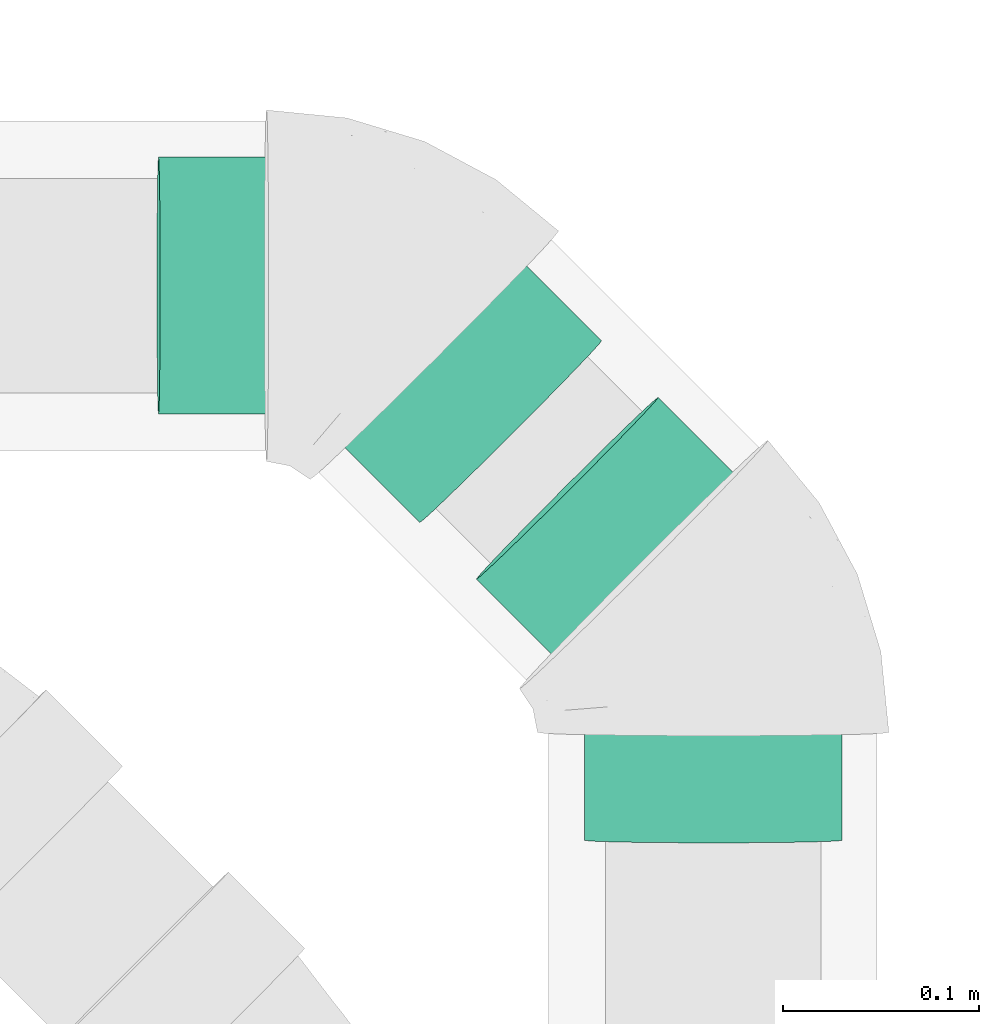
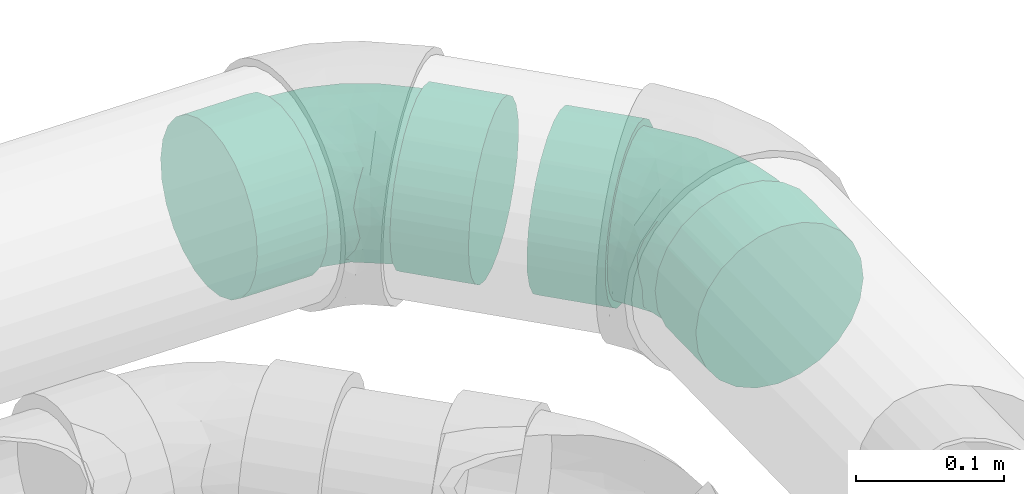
# One storey, part 74 of 78: 2 flow fittings.
"""IFC2X3 building model written with IfcOpenShell, lengths in millimetres."""

from ifc_helpers import new_model, entity, si_unit, converted_unit, derived_unit, direction, frame, origin_with_axes, place, context, subcontext, project, spatial, open_shell, surface_model, source, transform, mapped, type_object, element, save


model = new_model("IFC2X3")

# Units and contexts
model_context = context("Model", 3, precision=0.01, world=frame((0.0, 4.29681676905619e-09, 0.0)), true_north=direction((4.01073788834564e-13, 1.0)))
plan_context = context("Plan", 3, precision=0.01, world=frame((0.0, 4.29681676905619e-09, 0.0)), true_north=direction((4.01073788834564e-13, 1.0)))
body_context = subcontext(model_context, "Body", "Model", "MODEL_VIEW")
ifc_project = project(units=[converted_unit("PLANEANGLEUNIT", "DEGREE", entity("IfcPositiveLengthMeasure", 0.0174532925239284), si_unit("PLANEANGLEUNIT", "RADIAN"), dimensions=[0, 0, 0, 0, 0, 0, 0]), si_unit("AREAUNIT", "SQUARE_METRE"), si_unit("LENGTHUNIT", "METRE", prefix="MILLI"), si_unit("MASSUNIT", "GRAM", prefix="KILO"), si_unit("POWERUNIT", "WATT"), si_unit("PRESSUREUNIT", "PASCAL"), si_unit("FORCEUNIT", "NEWTON", prefix="KILO"), si_unit("ELECTRICVOLTAGEUNIT", "VOLT"), si_unit("ELECTRICCURRENTUNIT", "AMPERE"), si_unit("THERMODYNAMICTEMPERATUREUNIT", "DEGREE_CELSIUS"), si_unit("TIMEUNIT", "SECOND"), si_unit("VOLUMEUNIT", "CUBIC_METRE"), derived_unit("LINEARVELOCITYUNIT", [(si_unit("LENGTHUNIT", "METRE"), 1), (si_unit("TIMEUNIT", "SECOND"), -1)]), derived_unit("VOLUMETRICFLOWRATEUNIT", [(si_unit("VOLUMEUNIT", "CUBIC_METRE"), 1), (si_unit("TIMEUNIT", "SECOND"), -1)]), derived_unit("THERMALTRANSMITTANCEUNIT", [(si_unit("POWERUNIT", "WATT"), 1), (si_unit("THERMODYNAMICTEMPERATUREUNIT", "KELVIN"), -1), (si_unit("AREAUNIT", "SQUARE_METRE"), -1)]), derived_unit("SOUNDPRESSUREUNIT", [(si_unit("PRESSUREUNIT", "PASCAL"), 1)])], contexts=[model_context, plan_context])

# Site, building, storey
site_placement = place(None, frame((0.0, -4.29681676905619e-09, 0.0), z_axis=(0.0, 0.0, 1.0), x_axis=(1.0, 0.0, 0.0)))
site = spatial("IfcSite", under=ifc_project, at=site_placement, Name="ENGM", CompositionType="ELEMENT")
building_placement = place(site_placement, frame((0.0, 4.29681676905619e-09, 0.0), z_axis=(0.0, 0.0, 1.0), x_axis=(1.0, 0.0, 0.0)))
building = spatial("IfcBuilding", under=site, at=building_placement, Name="TH", CompositionType="ELEMENT")
storey_placement = place(building_placement, frame((0.0, 0.0, 205200.0), z_axis=(0.0, 0.0, 1.0), x_axis=(1.0, 0.0, 0.0)))
storey = spatial("IfcBuildingStorey", under=building, at=storey_placement, Name="Nivå D + 1,2 m", CompositionType="ELEMENT", Elevation=205200.0)

# Flow fittings
pipe_fitting_type = type_object("IfcPipeFittingType", Name="magi_sewer_bend_001", PredefinedType="BEND")
shared_shape_1 = source(origin_with_axes(), body_context, "Body", "SurfaceModel", [
    surface_model("IfcShellBasedSurfaceModel", [(-105.10835, -16.95265, -63.26814), (-105.10835, -32.75, -56.72466), (-105.10835, -46.3155, -46.3155), (-105.10835, -63.26814, -16.95265), (-105.10835, 56.72466, -32.75), (-105.10835, -56.72466, -32.75), (-105.10835, -65.5, 0.0), (-105.10835, 16.95265, -63.26814), (-105.10835, 0.0, -65.5), (-105.10835, 32.75, -56.72466), (-105.10835, 46.3155, -46.3155), (-105.10835, 63.26814, -16.95265), (-105.10835, -63.26814, 16.95265), (-105.10835, -56.72466, 32.75), (-105.10835, -46.3155, 46.3155), (-105.10835, 63.26814, 16.95265), (-105.10835, -16.95265, 63.26814), (-105.10835, 0.0, 65.5), (-105.10835, -32.75, 56.72466), (-105.10835, 46.3155, 46.3155), (-105.10835, 56.72466, 32.75), (-105.10835, 65.5, 0.0), (-105.10835, 16.95265, 63.26814), (-105.10835, 32.75, 56.72466), (-50.10835, -16.95265, 63.26814), (-50.10835, 16.95265, 63.26814), (-50.10835, 0.0, 65.5), (-50.10835, -46.3155, 46.3155), (-50.10835, -32.75, 56.72466), (-50.10835, -56.72466, 32.75), (-50.10835, -63.26814, 16.95265), (-50.10835, 46.3155, 46.3155), (-50.10835, 32.75, 56.72466), (-50.10835, 63.26814, 16.95265), (-50.10835, 56.72466, 32.75), (-50.10835, 63.26814, -16.95265), (-50.10835, 65.5, 0.0), (-50.10835, -63.26814, -16.95265), (-50.10835, 32.75, -56.72466), (-50.10835, -65.5, 0.0), (-50.10835, -16.95265, -63.26814), (-50.10835, -56.72466, -32.75), (-50.10835, -46.3155, -46.3155), (-50.10835, -32.75, -56.72466), (-50.10835, 0.0, -65.5), (-50.10835, 46.3155, -46.3155), (-50.10835, 56.72466, -32.75), (-50.10835, 16.95265, -63.26814), (34.23099, 114.42767, 32.75), (28.02689, 120.63378, 0.0), (29.6048, 119.05536, 16.95265), (51.18089, 97.47228, 56.72466), (41.59019, 107.06608, 46.3155), (62.34949, 86.30005, 63.26814), (74.33487, 74.31077, 65.5), (34.23099, 114.42767, -32.75), (29.6048, 119.05536, -16.95265), (41.59019, 107.06608, -46.3155), (62.34949, 86.30005, -63.26814), (51.18089, 97.47228, -56.72466), (86.32027, 62.3215, 63.26814), (97.48887, 51.14927, 56.72466), (107.07957, 41.55546, 46.3155), (114.43876, 34.19387, -32.75), (114.43876, 34.19387, 32.75), (119.06495, 29.56618, 16.95265), (120.64286, 27.98777, 0.0), (86.32027, 62.3215, -63.26814), (107.07957, 41.55546, -46.3155), (97.48887, 51.14927, -56.72466), (74.33487, 74.31077, -65.5), (119.06495, 29.56618, -16.95265), (81.74568, -10.8968, 0.0), (80.16777, -9.31838, 16.95265), (75.54159, -4.69069, 32.75), (68.18238, 2.67089, 46.3155), (58.59169, 12.2647, 56.72466), (47.42309, 23.43693, 63.26814), (75.54159, -4.69069, -32.75), (23.45231, 47.41548, 63.26814), (47.42309, 23.43693, -63.26814), (68.18238, 2.67089, -46.3155), (80.16777, -9.31838, -16.95265), (58.59169, 12.2647, -56.72466), (35.4377, 35.42621, -65.5), (12.28371, 58.58771, 56.72466), (-4.66619, 75.5431, 32.75), (23.45231, 47.41548, -63.26814), (2.69301, 68.18152, 46.3155), (-9.29238, 80.17079, 16.95265), (12.28371, 58.58771, -56.72466), (-4.66619, 75.5431, -32.75), (2.69301, 68.18152, -46.3155), (-10.87028, 81.74921, 0.0), (-9.29238, 80.17079, -16.95265), (35.4377, 35.42621, 65.5), (-50.10835, 15.65855, -58.43851), (-50.10835, 0.0, -60.5), (-50.10835, 58.43851, -15.65855), (-50.10835, 30.25, -52.39454), (-50.10835, 52.39454, -30.25), (-50.10835, 42.77996, -42.77996), (-50.10835, -60.5, 0.0), (-50.10835, -30.25, -52.39454), (-50.10835, -42.77996, -42.77996), (-50.10835, -15.65855, -58.43851), (-50.10835, -58.43851, -15.65855), (-50.10835, -52.39454, -30.25), (-50.10835, -58.43851, 15.65855), (-50.10835, 58.43851, 15.65855), (-50.10835, 52.39454, 30.25), (-50.10835, 42.77996, 42.77996), (-50.10835, 30.25, 52.39454), (-50.10835, 15.65855, 58.43851), (-50.10835, -52.39454, 30.25), (-50.10835, -42.77996, 42.77996), (-50.10835, -30.25, 52.39454), (-50.10835, -15.65855, 58.43851), (-50.10835, 0.0, 60.5), (-50.10835, 60.5, 0.0), (5.1926, 65.68111, -42.77996), (35.4377, 35.42621, -60.5), (24.36722, 46.50027, -58.43851), (14.05119, 56.81966, -52.39454), (-1.60483, 72.48075, -30.25), (-5.87787, 76.75517, -15.65855), (46.50817, 24.35214, -58.43851), (76.75326, -5.90276, 15.65855), (78.21071, -7.36069, 0.0), (65.68279, 5.1713, -42.77996), (56.82421, 14.03276, -52.39454), (72.48022, -1.62833, -30.25), (76.75326, -5.90276, -15.65855), (-5.87787, 76.75517, 15.65855), (14.05119, 56.81966, 52.39454), (-1.60483, 72.48075, 30.25), (5.1926, 65.68111, 42.77996), (24.36722, 46.50027, 58.43851), (72.48022, -1.62833, 30.25), (56.82421, 14.03276, 52.39454), (65.68279, 5.1713, 42.77996), (46.50817, 24.35214, 58.43851), (35.4377, 35.42621, 60.5), (-7.33532, 78.2131, 0.0), (15.40731, -37.20506, 33.71613), (-13.37778, -34.19375, 46.6846), (-19.52562, -46.27097, 35.42541), (-20.20257, -56.56365, 0.0), (-3.14217, -54.31808, 0.0), (-12.90639, -55.73836, 10.33179), (46.52215, -18.91936, 35.42541), (-23.96745, -22.18541, 55.29417), (6.21198, -15.0005, 54.5322), (1.79981, 36.36765, 56.46784), (10.93469, 28.63187, 59.61961), (-18.04833, -5.82532, 59.69858), (-5.75201, 13.88977, 60.2873), (-30.30711, 8.38322, 60.13279), (-17.1804, 41.48667, 49.39197), (-26.66937, 50.73825, 38.17927), (32.6352, 1.2548, 55.29417), (-23.23638, 25.17565, 56.5588), (23.34109, -39.60401, 23.84541), (-10.84187, -52.34263, 21.01084), (18.7815, -45.35297, 13.1522), (-24.91684, 60.16837, 24.85531), (48.53425, -30.29465, 10.33179), (54.27775, -25.71997, 0.0), (-24.22953, 64.82381, 12.71139), (44.67343, -29.35272, 21.01084), (16.88262, 8.64023, 59.69858), (33.63576, -14.72457, 46.6846), (-26.96053, 65.10341, 0.0), (10.15315, -24.5175, 48.24805), (18.74125, -45.25575, 0.0), (40.62466, -36.19342, 0.0), (-18.04833, -5.82532, -59.69858), (-12.90639, -55.73836, -10.33179), (18.78151, -45.35297, -13.1522), (16.88262, 8.64023, -59.69858), (-26.98451, 24.44753, -56.46784), (-27.97575, 12.51833, -59.61961), (-17.0104, 54.73821, -38.17927), (33.63576, -14.72457, -46.6846), (-24.91684, 60.16837, -24.85531), (44.67343, -29.35272, -21.01084), (-28.69428, 62.97488, -12.71139), (-1.36572, 34.2327, -56.5588), (-10.84187, -52.34263, -21.01084), (-17.1804, 41.48667, -49.39197), (-19.52562, -46.27097, -35.42541), (-13.37778, -34.19375, -46.6846), (10.15315, -24.5175, -48.24805), (15.40731, -37.20506, -33.71613), (-23.96745, -22.18541, -55.29417), (32.6352, 1.2548, -55.29417), (6.21198, -15.0005, -54.5322), (48.53426, -30.29465, -10.33179), (15.50697, 27.35568, -60.13279), (11.4924, -44.51078, -23.84541), (46.52215, -18.91936, -35.42541), (-5.75201, 13.88977, -60.2873)], [open_shell([[[0, 1, 2]], [[0, 2, 3]], [[0, 3, 4]], [[3, 2, 5]], [[4, 3, 6]], [[0, 7, 8]], [[0, 9, 7]], [[10, 9, 0]], [[0, 4, 10]], [[6, 11, 4]], [[6, 12, 11]], [[12, 13, 14]], [[11, 14, 15]], [[16, 17, 14]], [[16, 14, 18]], [[15, 14, 17]], [[15, 19, 20]], [[21, 11, 15]], [[19, 22, 23]], [[22, 19, 15]], [[17, 22, 15]], [[11, 12, 14]], [[24, 25, 26]], [[27, 24, 28]], [[27, 29, 30]], [[24, 27, 25]], [[30, 25, 27]], [[25, 31, 32]], [[31, 25, 33]], [[31, 33, 34]], [[25, 30, 33]], [[33, 35, 36]], [[33, 30, 35]], [[37, 38, 39]], [[40, 37, 41]], [[42, 43, 40]], [[42, 40, 41]], [[44, 37, 40]], [[39, 45, 46]], [[46, 35, 39]], [[38, 44, 47]], [[38, 45, 39]], [[38, 37, 44]], [[39, 35, 30]], [[35, 11, 36]], [[46, 4, 35]], [[47, 44, 7]], [[45, 10, 46]], [[35, 4, 11]], [[11, 21, 36]], [[9, 38, 7]], [[9, 10, 45]], [[38, 47, 7]], [[10, 4, 46]], [[45, 38, 9]], [[44, 8, 7]], [[0, 40, 43]], [[42, 1, 43]], [[5, 41, 37]], [[42, 41, 2]], [[3, 37, 39]], [[40, 0, 8]], [[43, 1, 0]], [[42, 2, 1]], [[41, 5, 2]], [[3, 5, 37]], [[39, 6, 3]], [[40, 8, 44]], [[30, 12, 39]], [[29, 13, 30]], [[28, 18, 27]], [[27, 14, 29]], [[30, 13, 12]], [[12, 6, 39]], [[17, 16, 24]], [[16, 18, 28]], [[14, 27, 18]], [[14, 13, 29]], [[24, 16, 28]], [[24, 26, 17]], [[22, 25, 32]], [[31, 23, 32]], [[20, 34, 33]], [[31, 34, 19]], [[15, 33, 36]], [[25, 22, 17]], [[32, 23, 22]], [[31, 19, 23]], [[34, 20, 19]], [[15, 20, 33]], [[36, 21, 15]], [[25, 17, 26]], [[48, 49, 50]], [[51, 48, 52]], [[48, 53, 49]], [[53, 48, 51]], [[54, 49, 53]], [[49, 55, 56]], [[49, 54, 55]], [[57, 58, 59]], [[55, 54, 57]], [[54, 58, 57]], [[54, 60, 58]], [[60, 61, 62]], [[63, 60, 62]], [[64, 65, 66]], [[62, 64, 63]], [[66, 63, 64]], [[67, 68, 69]], [[70, 58, 67]], [[67, 63, 68]], [[60, 63, 67]], [[66, 71, 63]], [[67, 58, 60]], [[72, 73, 74]], [[72, 74, 75]], [[75, 76, 77]], [[72, 75, 78]], [[79, 80, 75]], [[78, 80, 81]], [[78, 82, 72]], [[81, 80, 83]], [[78, 75, 80]], [[79, 84, 80]], [[79, 75, 77]], [[84, 79, 85]], [[84, 85, 86]], [[86, 87, 84]], [[86, 85, 88]], [[86, 89, 87]], [[90, 91, 92]], [[93, 90, 87]], [[91, 93, 94]], [[93, 91, 90]], [[87, 89, 93]], [[79, 77, 95]], [[87, 58, 84]], [[90, 59, 87]], [[94, 93, 56]], [[92, 57, 90]], [[87, 59, 58]], [[58, 70, 84]], [[55, 91, 56]], [[55, 57, 92]], [[91, 94, 56]], [[57, 59, 90]], [[92, 91, 55]], [[93, 49, 56]], [[50, 89, 86]], [[88, 48, 86]], [[51, 85, 79]], [[88, 85, 52]], [[53, 79, 95]], [[89, 50, 49]], [[86, 48, 50]], [[88, 52, 48]], [[85, 51, 52]], [[53, 51, 79]], [[95, 54, 53]], [[89, 49, 93]], [[60, 95, 77]], [[61, 77, 76]], [[64, 74, 73]], [[65, 73, 72]], [[77, 61, 60]], [[60, 54, 95]], [[75, 62, 61]], [[62, 75, 64]], [[64, 75, 74]], [[73, 65, 64]], [[75, 61, 76]], [[72, 66, 65]], [[71, 82, 78]], [[81, 63, 78]], [[69, 83, 80]], [[81, 83, 68]], [[67, 80, 84]], [[82, 71, 66]], [[78, 63, 71]], [[81, 68, 63]], [[83, 69, 68]], [[67, 69, 80]], [[84, 70, 67]], [[82, 66, 72]], [[96, 97, 98]], [[99, 96, 98]], [[98, 100, 101]], [[99, 98, 101]], [[102, 98, 97]], [[103, 104, 105]], [[104, 97, 105]], [[106, 102, 107]], [[104, 107, 102]], [[104, 102, 97]], [[102, 108, 98]], [[109, 98, 108]], [[110, 109, 111]], [[112, 109, 108]], [[111, 109, 112]], [[113, 112, 108]], [[114, 115, 108]], [[116, 108, 115]], [[117, 118, 116]], [[108, 116, 118]], [[118, 113, 108]], [[119, 98, 109]], [[120, 121, 122]], [[120, 122, 123]], [[120, 124, 125]], [[121, 120, 126]], [[127, 128, 120]], [[126, 129, 130]], [[129, 126, 128]], [[131, 128, 132]], [[128, 131, 129]], [[126, 120, 128]], [[120, 125, 133]], [[127, 120, 133]], [[134, 133, 135]], [[133, 134, 127]], [[134, 135, 136]], [[137, 127, 134]], [[138, 139, 140]], [[139, 138, 127]], [[127, 141, 139]], [[141, 127, 142]], [[127, 137, 142]], [[133, 125, 143]], [[144, 145, 146]], [[147, 148, 149]], [[116, 115, 145]], [[138, 140, 150]], [[151, 145, 152]], [[146, 145, 115]], [[137, 153, 154]], [[117, 116, 151]], [[155, 156, 157]], [[118, 117, 155]], [[111, 158, 159]], [[139, 141, 160]], [[157, 113, 118]], [[112, 161, 158]], [[108, 147, 149]], [[134, 136, 158]], [[162, 163, 164]], [[158, 111, 112]], [[115, 114, 146]], [[110, 159, 165]], [[109, 110, 165]], [[127, 166, 167]], [[168, 119, 109]], [[169, 162, 164]], [[163, 149, 164]], [[112, 113, 161]], [[142, 154, 170]], [[140, 139, 171]], [[135, 133, 165]], [[170, 141, 142]], [[144, 146, 163]], [[140, 171, 150]], [[156, 154, 153]], [[171, 139, 160]], [[114, 163, 146]], [[166, 127, 169]], [[144, 150, 171]], [[157, 161, 113]], [[144, 162, 150]], [[109, 165, 168]], [[114, 108, 163]], [[172, 168, 143]], [[145, 173, 152]], [[133, 168, 165]], [[152, 170, 155]], [[135, 165, 159]], [[152, 160, 170]], [[135, 159, 136]], [[156, 155, 170]], [[137, 134, 153]], [[153, 158, 161]], [[151, 155, 117]], [[110, 111, 159]], [[169, 127, 138]], [[169, 138, 150]], [[173, 144, 171]], [[136, 159, 158]], [[158, 153, 134]], [[156, 153, 161]], [[145, 151, 116]], [[155, 151, 152]], [[170, 160, 141]], [[171, 160, 152]], [[108, 102, 147]], [[164, 148, 174]], [[108, 149, 163]], [[148, 164, 149]], [[166, 164, 175]], [[167, 166, 175]], [[167, 128, 127]], [[164, 166, 169]], [[170, 154, 156]], [[142, 137, 154]], [[155, 157, 118]], [[161, 157, 156]], [[144, 173, 145]], [[171, 152, 173]], [[143, 168, 133]], [[168, 172, 119]], [[150, 162, 169]], [[163, 162, 144]], [[175, 164, 174]], [[105, 97, 176]], [[148, 177, 178]], [[121, 126, 179]], [[180, 181, 96]], [[100, 182, 101]], [[130, 129, 183]], [[184, 182, 100]], [[131, 132, 185]], [[98, 186, 184]], [[123, 122, 187]], [[106, 177, 147]], [[99, 180, 96]], [[177, 106, 188]], [[120, 189, 182]], [[188, 107, 190]], [[190, 104, 191]], [[104, 103, 191]], [[192, 193, 191]], [[106, 107, 188]], [[104, 190, 107]], [[194, 103, 105]], [[195, 179, 126]], [[125, 124, 184]], [[196, 194, 176]], [[119, 172, 186]], [[193, 190, 191]], [[143, 125, 186]], [[196, 176, 179]], [[120, 123, 189]], [[184, 100, 98]], [[124, 182, 184]], [[194, 191, 103]], [[187, 189, 123]], [[181, 176, 97]], [[189, 187, 180]], [[101, 189, 99]], [[132, 167, 197]], [[198, 122, 121]], [[195, 126, 130]], [[199, 185, 178]], [[129, 200, 183]], [[196, 195, 183]], [[129, 131, 200]], [[201, 198, 179]], [[200, 193, 183]], [[201, 179, 176]], [[197, 167, 175]], [[198, 187, 122]], [[201, 181, 180]], [[177, 188, 178]], [[193, 199, 190]], [[183, 192, 196]], [[131, 185, 200]], [[125, 184, 186]], [[193, 200, 185]], [[124, 120, 182]], [[101, 182, 189]], [[189, 180, 99]], [[201, 180, 187]], [[176, 194, 105]], [[191, 194, 196]], [[183, 195, 130]], [[179, 195, 196]], [[147, 177, 148]], [[147, 102, 106]], [[199, 178, 188]], [[197, 178, 185]], [[178, 175, 174]], [[132, 128, 167]], [[178, 197, 175]], [[132, 197, 185]], [[176, 181, 201]], [[97, 96, 181]], [[179, 198, 121]], [[187, 198, 201]], [[193, 192, 183]], [[191, 196, 192]], [[119, 186, 98]], [[186, 172, 143]], [[190, 199, 188]], [[185, 199, 193]], [[148, 178, 174]]])]),
])
flow_fitting_1_placement = place(storey_placement, frame((903320.98069, 482641.12133, 4370.33634000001), z_axis=(0.00819800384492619, -0.0199950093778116, 0.999766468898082), x_axis=(-2.62283794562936e-09, 0.999800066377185, 0.019995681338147)))
element("IfcFlowFitting", 1, at=flow_fitting_1_placement, inside=storey, type_object=pipe_fitting_type, Name="magi_sewer_bend_001", context=body_context, shape_type="MappedRepresentation", body=[
    mapped(shared_shape_1, transform((0.0, 0.0, 0.0), scale=1.0)),
])
shared_shape_2 = source(origin_with_axes(), body_context, "Body", "SurfaceModel", [
    surface_model("IfcShellBasedSurfaceModel", [(-105.11433, -16.95265, -63.26814), (-105.11433, -32.75, -56.72466), (-105.11433, -46.3155, -46.3155), (-105.11433, -63.26814, -16.95265), (-105.11433, 56.72466, -32.75), (-105.11433, -56.72466, -32.75), (-105.11433, -65.5, 0.0), (-105.11433, 0.0, -65.5), (-105.11433, 32.75, -56.72466), (-105.11433, 16.95265, -63.26814), (-105.11433, 46.3155, -46.3155), (-105.11433, 63.26814, -16.95265), (-105.11433, -63.26814, 16.95265), (-105.11433, -56.72466, 32.75), (-105.11433, -46.3155, 46.3155), (-105.11433, 63.26814, 16.95265), (-105.11433, -16.95265, 63.26814), (-105.11433, 0.0, 65.5), (-105.11433, -32.75, 56.72466), (-105.11433, 46.3155, 46.3155), (-105.11433, 56.72466, 32.75), (-105.11433, 65.5, 0.0), (-105.11433, 16.95265, 63.26814), (-105.11433, 32.75, 56.72466), (-50.11433, -16.95265, 63.26814), (-50.11433, 16.95265, 63.26814), (-50.11433, 0.0, 65.5), (-50.11433, -46.3155, 46.3155), (-50.11433, -32.75, 56.72466), (-50.11433, -56.72466, 32.75), (-50.11433, -63.26814, 16.95265), (-50.11433, 46.3155, 46.3155), (-50.11433, 32.75, 56.72466), (-50.11433, 63.26814, 16.95265), (-50.11433, 56.72466, 32.75), (-50.11433, 63.26814, -16.95265), (-50.11433, 65.5, 0.0), (-50.11433, -63.26814, -16.95265), (-50.11433, 32.75, -56.72466), (-50.11433, -65.5, 0.0), (-50.11433, -16.95265, -63.26814), (-50.11433, -56.72466, -32.75), (-50.11433, -46.3155, -46.3155), (-50.11433, -32.75, -56.72466), (-50.11433, 0.0, -65.5), (-50.11433, 46.3155, -46.3155), (-50.11433, 56.72466, -32.75), (-50.11433, 16.95265, -63.26814), (29.59898, 119.06208, 16.95265), (34.22556, 114.43478, 32.75), (41.58538, 107.07382, 46.3155), (74.33284, 74.32128, 65.5), (51.17689, 97.48082, 56.72466), (62.34644, 86.30954, 63.26814), (51.17689, 97.48082, -56.72466), (29.59898, 119.06208, -16.95265), (41.58538, 107.07382, -46.3155), (34.22556, 114.43478, -32.75), (28.02094, 120.64037, 0.0), (62.34644, 86.30954, -63.26814), (86.31923, 62.33301, 63.26814), (97.48878, 51.16173, 56.72466), (107.08029, 41.56873, 46.3155), (86.31923, 62.33301, -63.26814), (114.44011, 34.20776, 32.75), (119.06669, 29.58046, 16.95265), (120.64473, 28.00218, 0.0), (107.08029, 41.56873, -46.3155), (97.48878, 51.16173, -56.72466), (74.33284, 74.32128, -65.5), (119.06669, 29.58046, -16.95265), (114.44011, 34.20776, -32.75), (80.17279, -9.30738, 16.95265), (80.17279, -9.30738, -16.95265), (81.75083, -10.88567, 0.0), (68.18639, 2.68088, 46.3155), (75.54621, -4.68009, 32.75), (58.59488, 12.27388, 56.72466), (47.42534, 23.44516, 63.26814), (68.18639, 2.68088, -46.3155), (75.54621, -4.68009, -32.75), (47.42534, 23.44516, -63.26814), (58.59488, 12.27388, -56.72466), (23.45254, 47.42169, -63.26814), (35.43894, 35.43343, -65.5), (-9.29492, 80.17425, 16.95265), (23.45254, 47.42169, 63.26814), (12.28299, 58.59298, 56.72466), (2.69148, 68.18597, 46.3155), (-4.66834, 75.54694, 32.75), (2.69148, 68.18597, -46.3155), (12.28299, 58.59298, -56.72466), (-4.66834, 75.54694, -32.75), (-10.87295, 81.75252, 0.0), (-9.29492, 80.17425, -16.95265), (35.43894, 35.43343, 65.5), (-50.11433, 30.25, -52.39454), (-50.11433, 15.65855, -58.43851), (-50.11433, 0.0, -60.5), (-50.11433, 58.43851, -15.65855), (-50.11433, 52.39454, -30.25), (-50.11433, 42.77996, -42.77996), (-50.11433, -60.5, 0.0), (-50.11433, -30.25, -52.39454), (-50.11433, -42.77996, -42.77996), (-50.11433, -15.65855, -58.43851), (-50.11433, -58.43851, -15.65855), (-50.11433, -52.39454, -30.25), (-50.11433, -58.43851, 15.65855), (-50.11433, 58.43851, 15.65855), (-50.11433, 52.39454, 30.25), (-50.11433, 42.77996, 42.77996), (-50.11433, 30.25, 52.39454), (-50.11433, 15.65855, 58.43851), (-50.11433, -52.39454, 30.25), (-50.11433, -42.77996, 42.77996), (-50.11433, -30.25, 52.39454), (-50.11433, -15.65855, 58.43851), (-50.11433, 0.0, 60.5), (-50.11433, 60.5, 0.0), (35.43894, 35.43343, -60.5), (24.36753, 46.50655, -58.43851), (14.05062, 56.82507, -52.39454), (-5.88012, 76.7589, -15.65855), (5.19129, 65.68578, -42.77996), (-1.60671, 72.48484, -30.25), (65.68658, 5.18107, -42.77996), (76.758, -5.89206, 15.65855), (46.51035, 24.3603, -58.43851), (56.82725, 14.04178, -52.39454), (72.48459, -1.61799, -30.25), (78.21557, -7.34986, 0.0), (76.758, -5.89206, -15.65855), (-5.88012, 76.7589, 15.65855), (-1.60671, 72.48484, 30.25), (35.43894, 35.43343, 60.5), (14.05062, 56.82507, 52.39454), (5.19129, 65.68578, 42.77996), (24.36753, 46.50655, 58.43851), (72.48459, -1.61799, 30.25), (56.82725, 14.04178, 52.39454), (65.68658, 5.18107, 42.77996), (46.51035, 24.3603, 58.43851), (-7.3377, 78.21671, 0.0), (15.40818, -37.20271, 33.71545), (-13.38137, -34.19347, 46.68437), (-19.53112, -46.27101, 35.42524), (-20.20863, -56.56324, 0.0), (-3.14322, -54.31675, 0.0), (-12.91001, -55.73794, 10.33136), (46.52766, -18.91158, 35.42524), (-23.97002, -22.18511, 55.29403), (6.21199, -14.99871, 54.53189), (1.79771, 36.36957, 56.468), (10.93589, 28.63505, 59.61983), (-18.0526, -5.8252, 59.69853), (-5.75324, 13.89108, 60.28736), (-30.31032, 8.3834, 60.13282), (-17.18288, 41.48768, 49.39226), (-26.67508, 50.73821, 38.17942), (32.6367, 1.25957, 55.29403), (-23.24139, 25.17568, 56.55889), (23.34473, -39.60009, 23.84442), (-10.84498, -52.34213, 21.01045), (18.78265, -45.35033, 13.15091), (-24.92019, 60.16928, 24.85568), (48.53907, -30.2877, 10.33136), (54.2839, -25.71081, 0.0), (-24.23131, 64.82572, 12.71159), (44.67775, -29.34639, 21.01045), (16.88483, 8.64476, 59.69853), (33.63935, -14.71899, 46.68437), (-26.96415, 65.10439, 0.0), (10.15401, -24.51664, 48.24666), (18.74216, -45.25252, 0.0), (40.62752, -36.18832, 0.0), (-18.0526, -5.8252, -59.69853), (-12.91001, -55.73794, -10.33136), (18.78266, -45.35033, -13.1509), (16.88483, 8.64477, -59.69853), (-26.98645, 24.44808, -56.468), (-27.97991, 12.51737, -59.61983), (-17.01096, 54.74079, -38.17942), (33.63935, -14.71899, -46.68437), (-24.92019, 60.16928, -24.85568), (44.67776, -29.34639, -21.01045), (-28.69969, 62.97505, -12.71159), (-1.36509, 34.23615, -56.55889), (-10.84498, -52.34213, -21.01045), (-17.18288, 41.48768, -49.39226), (-19.53112, -46.27101, -35.42524), (-13.38137, -34.19347, -46.68437), (10.15401, -24.51664, -48.24666), (15.40818, -37.20271, -33.71544), (-23.97002, -22.18511, -55.29403), (32.6367, 1.25957, -55.29403), (6.21199, -14.99871, -54.53189), (48.53907, -30.2877, -10.33136), (15.5068, 27.35939, -60.13282), (11.49081, -44.50959, -23.84442), (46.52766, -18.91158, -35.42524), (-5.75324, 13.89108, -60.28736)], [open_shell([[[0, 1, 2]], [[0, 2, 3]], [[0, 3, 4]], [[3, 2, 5]], [[4, 3, 6]], [[7, 8, 9]], [[7, 0, 8]], [[10, 8, 0]], [[0, 4, 10]], [[6, 11, 4]], [[6, 12, 11]], [[12, 13, 14]], [[11, 14, 15]], [[16, 17, 14]], [[16, 14, 18]], [[15, 14, 17]], [[15, 19, 20]], [[21, 11, 15]], [[19, 22, 23]], [[22, 19, 15]], [[17, 22, 15]], [[11, 12, 14]], [[24, 25, 26]], [[27, 24, 28]], [[27, 29, 30]], [[24, 27, 25]], [[30, 25, 27]], [[25, 31, 32]], [[31, 25, 33]], [[31, 33, 34]], [[25, 30, 33]], [[33, 35, 36]], [[33, 30, 35]], [[37, 38, 39]], [[40, 37, 41]], [[42, 43, 40]], [[42, 40, 41]], [[44, 37, 40]], [[39, 45, 46]], [[46, 35, 39]], [[38, 44, 47]], [[38, 45, 39]], [[38, 37, 44]], [[39, 35, 30]], [[35, 11, 36]], [[46, 4, 35]], [[47, 44, 9]], [[45, 10, 46]], [[35, 4, 11]], [[11, 21, 36]], [[8, 38, 9]], [[8, 10, 45]], [[38, 47, 9]], [[10, 4, 46]], [[45, 38, 8]], [[44, 7, 9]], [[0, 40, 43]], [[42, 1, 43]], [[5, 41, 37]], [[42, 41, 2]], [[3, 37, 39]], [[40, 0, 7]], [[43, 1, 0]], [[42, 2, 1]], [[41, 5, 2]], [[3, 5, 37]], [[39, 6, 3]], [[40, 7, 44]], [[30, 12, 39]], [[29, 13, 30]], [[28, 18, 27]], [[27, 14, 29]], [[30, 13, 12]], [[12, 6, 39]], [[17, 16, 24]], [[16, 18, 28]], [[14, 27, 18]], [[14, 13, 29]], [[24, 16, 28]], [[24, 26, 17]], [[22, 25, 32]], [[31, 23, 32]], [[20, 34, 33]], [[31, 34, 19]], [[15, 33, 36]], [[25, 22, 17]], [[32, 23, 22]], [[31, 19, 23]], [[34, 20, 19]], [[15, 20, 33]], [[36, 21, 15]], [[25, 17, 26]], [[48, 49, 50]], [[48, 50, 51]], [[52, 53, 51]], [[52, 51, 50]], [[48, 51, 54]], [[55, 56, 57]], [[55, 58, 48]], [[55, 54, 56]], [[55, 48, 54]], [[59, 54, 51]], [[51, 60, 59]], [[60, 61, 62]], [[63, 60, 62]], [[64, 65, 66]], [[64, 66, 62]], [[63, 62, 66]], [[63, 67, 68]], [[69, 59, 63]], [[67, 70, 71]], [[70, 67, 63]], [[66, 70, 63]], [[63, 59, 60]], [[72, 73, 74]], [[75, 72, 76]], [[75, 77, 78]], [[72, 75, 73]], [[78, 73, 75]], [[73, 79, 80]], [[79, 73, 81]], [[79, 81, 82]], [[73, 78, 81]], [[81, 83, 84]], [[81, 78, 85]], [[78, 86, 85]], [[85, 86, 87]], [[88, 89, 85]], [[88, 85, 87]], [[85, 90, 81]], [[81, 91, 83]], [[90, 91, 81]], [[92, 93, 94]], [[92, 90, 85]], [[93, 92, 85]], [[86, 78, 95]], [[83, 59, 84]], [[91, 54, 83]], [[94, 93, 55]], [[90, 56, 91]], [[83, 54, 59]], [[59, 69, 84]], [[57, 92, 55]], [[57, 56, 90]], [[92, 94, 55]], [[56, 54, 91]], [[90, 92, 57]], [[93, 58, 55]], [[48, 85, 89]], [[88, 49, 89]], [[52, 87, 86]], [[88, 87, 50]], [[53, 86, 95]], [[85, 48, 58]], [[89, 49, 48]], [[88, 50, 49]], [[87, 52, 50]], [[53, 52, 86]], [[95, 51, 53]], [[85, 58, 93]], [[78, 60, 95]], [[77, 61, 78]], [[76, 64, 75]], [[75, 62, 77]], [[78, 61, 60]], [[60, 51, 95]], [[66, 65, 72]], [[65, 64, 76]], [[62, 75, 64]], [[62, 61, 77]], [[72, 65, 76]], [[72, 74, 66]], [[70, 73, 80]], [[79, 71, 80]], [[68, 82, 81]], [[79, 82, 67]], [[63, 81, 84]], [[73, 70, 66]], [[80, 71, 70]], [[79, 67, 71]], [[82, 68, 67]], [[63, 68, 81]], [[84, 69, 63]], [[73, 66, 74]], [[96, 97, 98]], [[99, 96, 98]], [[99, 100, 101]], [[96, 99, 101]], [[102, 99, 98]], [[103, 104, 105]], [[104, 98, 105]], [[106, 102, 107]], [[104, 107, 102]], [[104, 102, 98]], [[102, 108, 99]], [[109, 99, 108]], [[110, 109, 111]], [[112, 109, 108]], [[111, 109, 112]], [[113, 112, 108]], [[114, 115, 108]], [[116, 108, 115]], [[117, 118, 116]], [[108, 116, 118]], [[118, 113, 108]], [[119, 99, 109]], [[120, 121, 122]], [[120, 122, 123]], [[124, 125, 123]], [[124, 123, 122]], [[126, 120, 127]], [[128, 126, 129]], [[128, 120, 126]], [[130, 131, 132]], [[131, 130, 126]], [[126, 127, 131]], [[127, 120, 123]], [[127, 123, 133]], [[134, 135, 133]], [[135, 134, 136]], [[136, 134, 137]], [[138, 135, 136]], [[139, 140, 141]], [[140, 139, 127]], [[140, 135, 142]], [[140, 127, 133]], [[133, 135, 140]], [[133, 123, 143]], [[144, 145, 146]], [[147, 148, 149]], [[116, 115, 145]], [[139, 141, 150]], [[151, 145, 152]], [[146, 145, 115]], [[138, 153, 154]], [[117, 116, 151]], [[155, 156, 157]], [[118, 117, 155]], [[111, 158, 159]], [[140, 142, 160]], [[157, 113, 118]], [[112, 161, 158]], [[108, 147, 149]], [[136, 137, 158]], [[162, 163, 164]], [[158, 111, 112]], [[115, 114, 146]], [[110, 159, 165]], [[109, 110, 165]], [[127, 166, 167]], [[168, 119, 109]], [[169, 162, 164]], [[163, 149, 164]], [[112, 113, 161]], [[135, 154, 170]], [[141, 140, 171]], [[134, 133, 165]], [[170, 142, 135]], [[144, 146, 163]], [[141, 171, 150]], [[156, 154, 153]], [[171, 140, 160]], [[114, 163, 146]], [[166, 127, 169]], [[144, 150, 171]], [[157, 161, 113]], [[144, 162, 150]], [[109, 165, 168]], [[114, 108, 163]], [[172, 168, 143]], [[145, 173, 152]], [[133, 168, 165]], [[152, 170, 155]], [[134, 165, 159]], [[152, 160, 170]], [[134, 159, 137]], [[156, 155, 170]], [[138, 136, 153]], [[153, 158, 161]], [[151, 155, 117]], [[110, 111, 159]], [[169, 127, 139]], [[169, 139, 150]], [[173, 144, 171]], [[137, 159, 158]], [[158, 153, 136]], [[156, 153, 161]], [[145, 151, 116]], [[155, 151, 152]], [[170, 160, 142]], [[171, 160, 152]], [[108, 102, 147]], [[164, 148, 174]], [[108, 149, 163]], [[148, 164, 149]], [[166, 164, 175]], [[167, 166, 175]], [[167, 131, 127]], [[164, 166, 169]], [[170, 154, 156]], [[135, 138, 154]], [[155, 157, 118]], [[161, 157, 156]], [[144, 173, 145]], [[171, 152, 173]], [[143, 168, 133]], [[168, 172, 119]], [[150, 162, 169]], [[163, 162, 144]], [[175, 164, 174]], [[105, 98, 176]], [[148, 177, 178]], [[120, 128, 179]], [[180, 181, 97]], [[100, 182, 101]], [[129, 126, 183]], [[184, 182, 100]], [[130, 132, 185]], [[99, 186, 184]], [[122, 121, 187]], [[106, 177, 147]], [[96, 180, 97]], [[177, 106, 188]], [[124, 189, 182]], [[188, 107, 190]], [[190, 104, 191]], [[104, 103, 191]], [[192, 193, 191]], [[106, 107, 188]], [[104, 190, 107]], [[194, 103, 105]], [[195, 179, 128]], [[123, 125, 184]], [[196, 194, 176]], [[119, 172, 186]], [[193, 190, 191]], [[143, 123, 186]], [[196, 176, 179]], [[124, 122, 189]], [[184, 100, 99]], [[125, 182, 184]], [[194, 191, 103]], [[187, 189, 122]], [[181, 176, 98]], [[189, 187, 180]], [[101, 189, 96]], [[132, 167, 197]], [[198, 121, 120]], [[195, 128, 129]], [[199, 185, 178]], [[126, 200, 183]], [[196, 195, 183]], [[126, 130, 200]], [[201, 198, 179]], [[200, 193, 183]], [[201, 179, 176]], [[197, 167, 175]], [[198, 187, 121]], [[201, 181, 180]], [[177, 188, 178]], [[193, 199, 190]], [[183, 192, 196]], [[130, 185, 200]], [[123, 184, 186]], [[193, 200, 185]], [[125, 124, 182]], [[101, 182, 189]], [[189, 180, 96]], [[201, 180, 187]], [[176, 194, 105]], [[191, 194, 196]], [[183, 195, 129]], [[179, 195, 196]], [[147, 177, 148]], [[147, 102, 106]], [[199, 178, 188]], [[197, 178, 185]], [[178, 175, 174]], [[132, 131, 167]], [[178, 197, 175]], [[132, 197, 185]], [[176, 181, 201]], [[98, 97, 181]], [[179, 198, 120]], [[187, 198, 201]], [[193, 192, 183]], [[191, 196, 192]], [[119, 186, 99]], [[186, 172, 143]], [[190, 199, 188]], [[185, 199, 193]], [[148, 178, 174]]])]),
])
flow_fitting_2_placement = place(storey_placement, frame((903143.47567, 482818.6253, 4375.34198999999), z_axis=(0.0124489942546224, -0.015744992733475, 0.999798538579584), x_axis=(-0.70696824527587, 0.706964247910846, 0.0199362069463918)))
element("IfcFlowFitting", 2, at=flow_fitting_2_placement, inside=storey, type_object=pipe_fitting_type, Name="magi_sewer_bend_001", context=body_context, shape_type="MappedRepresentation", body=[
    mapped(shared_shape_2, transform((0.0, 0.0, 0.0), scale=1.0)),
])

save(model, "model.ifc")
